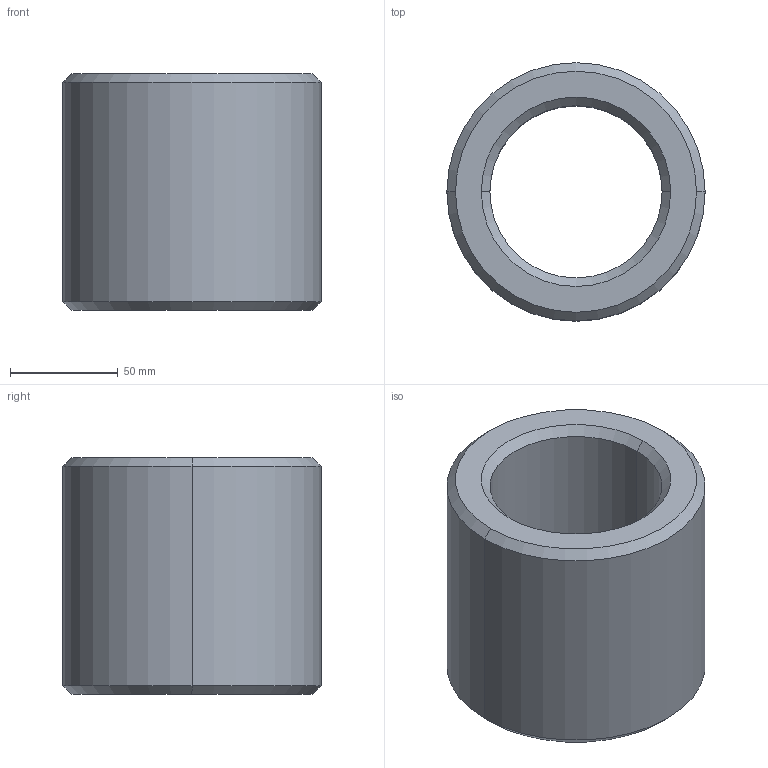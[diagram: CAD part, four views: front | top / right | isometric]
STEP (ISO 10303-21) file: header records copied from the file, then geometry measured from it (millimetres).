
FILE_DESCRIPTION (( 'STEP AP203' ), '1' );
FILE_NAME ('L1339.L80-10.step', '2024-10-24T14:07:36', ( '' ), ( '' ), 'SwSTEP 2.0', 'SolidWorks 2019', '' );
FILE_SCHEMA (( 'CONFIG_CONTROL_DESIGN' ));
Length unit declared in the file: millimetre
Products named in the file (1): L1339.L80-10
Bounding box: 120 x 120 x 110 mm (x, y, z)
Volume: 681097.3 mm3; surface area: 78736.9 mm2
Topology: 1 solids, 1 shells, 14 faces, 28 edges, 16 vertices
Faces by surface type: cone 8, cylinder 4, plane 2
Entity records: 445 total; most frequent: DIRECTION 74, CARTESIAN_POINT 59, ORIENTED_EDGE 56, AXIS2_PLACEMENT_3D 31, EDGE_CURVE 28, EDGE_LOOP 16, VERTEX_POINT 16, CIRCLE 16
